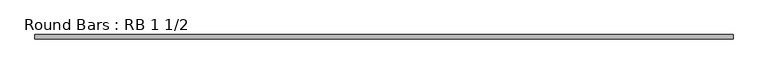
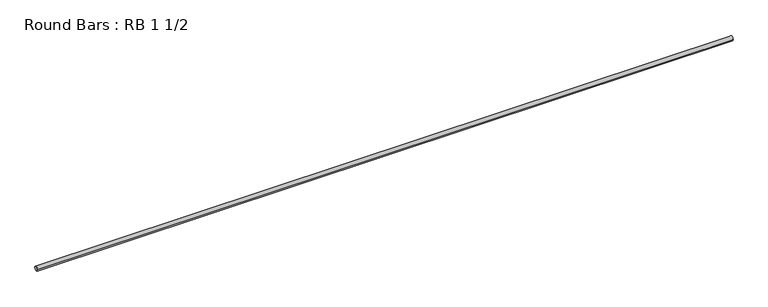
"""IFC4 building model written with IfcOpenShell, lengths in millimetres: member geometry, Round Bars : RB 1 1/2."""

from ifc_helpers import new_model, si_unit, point, frame, origin, origin_2d, place, context, project, spatial, circle_curve, trimmed, segment, composite_curve, outline, extrude, source, transform, mapped, element, save


def round_bars_rb_1_1_2_5837fa32(model_context):
    return source(origin(), model_context, "Body", "SweptSolid", [
        extrude(outline(composite_curve([segment(trimmed(circle_curve(origin_2d(), 19.05), [point((19.05, 0.0))], [point((-19.05, 0.0))], False, "CARTESIAN"), True, "CONTINUOUS"), segment(trimmed(circle_curve(origin_2d(), 19.05), [point((-19.05, 0.0))], [point((19.05, 0.0))], False, "CARTESIAN"), True, "CONTINUOUS")], self_intersect=False)), frame((-2835.5805132, 0.0, 0.0), z_axis=(1.0, 0.0, 0.0), x_axis=(0.0, 1.0, 0.0)), (0.0, 0.0, 1.0), 5980.1310087),
    ])


if __name__ == "__main__":
    model = new_model("IFC4")
    model_context = context("Model", 3, world=origin())
    ifc_project = project(units=[si_unit("LENGTHUNIT", "METRE", prefix="MILLI")], contexts=[model_context])
    site = spatial("IfcSite", under=ifc_project)
    building = spatial("IfcBuilding", under=site)
    placement = place(None, origin())
    round_bars_rb_1_1_2_shape = round_bars_rb_1_1_2_5837fa32(model_context)
    element("IfcMember", 1, ObjectType="Round Bars : RB 1 1/2", at=placement, inside=building, context=model_context, shape_type="MappedRepresentation", body=[
        mapped(round_bars_rb_1_1_2_shape, transform((0.0, 0.0, 0.0), x_axis=(1.0, 0.0, 0.0), y_axis=(0.0, 1.0, 0.0), z_axis=(0.0, 0.0, 1.0))),
    ])
    save(model, "model.ifc")
